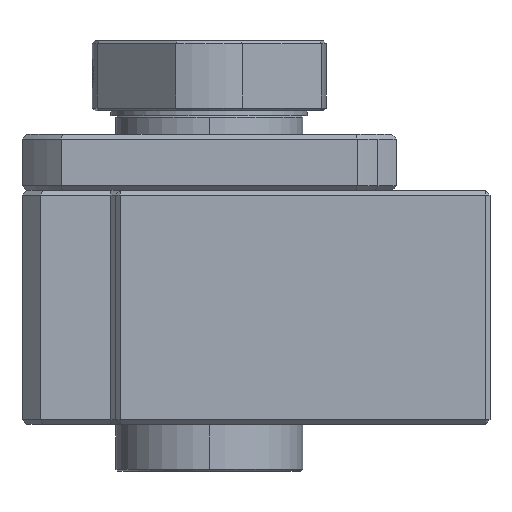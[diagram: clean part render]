
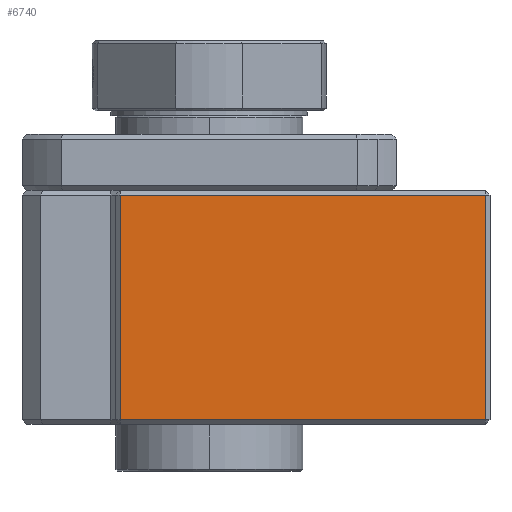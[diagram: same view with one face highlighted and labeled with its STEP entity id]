
A CAD part, left-side view. The second image highlights one B-rep face of the part: STEP entity #6740.
In plain terms, the highlighted planar face has unit normal (-1, 0, 0).
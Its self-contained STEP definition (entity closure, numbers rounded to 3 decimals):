
#515 = EDGE_LOOP ( 'NONE', ( #9942, #9940, #9941, #9939 ) ) ;
#806 = CARTESIAN_POINT ( 'NONE',  ( -40., -29.5, 12. ) ) ;
#1034 = FACE_OUTER_BOUND ( 'NONE', #515, .T. ) ;
#1037 = AXIS2_PLACEMENT_3D ( 'NONE', #10762, #10763, #10764 ) ;
#1976 = LINE ( 'NONE', #1977, #6554 ) ;
#1977 = CARTESIAN_POINT ( 'NONE',  ( -40., 10., -12. ) ) ;
#1978 = DIRECTION ( 'NONE',  ( 0., -1., 0. ) ) ;
#1979 = LINE ( 'NONE', #1980, #6550 ) ;
#1980 = CARTESIAN_POINT ( 'NONE',  ( -40., 9.5, 12.5 ) ) ;
#1981 = DIRECTION ( 'NONE',  ( 0., 0., -1. ) ) ;
#1982 = LINE ( 'NONE', #1983, #6545 ) ;
#1983 = CARTESIAN_POINT ( 'NONE',  ( -40., -29.5, 12.5 ) ) ;
#1984 = DIRECTION ( 'NONE',  ( 0., 0., 1. ) ) ;
#1985 = LINE ( 'NONE', #1986, #6539 ) ;
#1986 = CARTESIAN_POINT ( 'NONE',  ( -40., 10., 12. ) ) ;
#1987 = DIRECTION ( 'NONE',  ( 0., 1., 0. ) ) ;
#2694 = VERTEX_POINT ( 'NONE', #806 ) ;
#2760 = VERTEX_POINT ( 'NONE', #11351 ) ;
#2813 = VERTEX_POINT ( 'NONE', #11388 ) ;
#3028 = VERTEX_POINT ( 'NONE', #11548 ) ;
#5404 = EDGE_CURVE ( 'NONE', #3028, #2813, #1976, .T. ) ;
#5405 = EDGE_CURVE ( 'NONE', #2760, #3028, #1979, .T. ) ;
#5406 = EDGE_CURVE ( 'NONE', #2813, #2694, #1982, .T. ) ;
#5407 = EDGE_CURVE ( 'NONE', #2694, #2760, #1985, .T. ) ;
#6539 = VECTOR ( 'NONE', #1987, 1000. ) ;
#6545 = VECTOR ( 'NONE', #1984, 1000. ) ;
#6550 = VECTOR ( 'NONE', #1981, 1000. ) ;
#6554 = VECTOR ( 'NONE', #1978, 1000. ) ;
#6740 = ADVANCED_FACE ( 'NONE', ( #1034 ), #10761, .F. ) ;
#9939 = ORIENTED_EDGE ( 'NONE', *, *, #5407, .T. ) ;
#9940 = ORIENTED_EDGE ( 'NONE', *, *, #5404, .T. ) ;
#9941 = ORIENTED_EDGE ( 'NONE', *, *, #5406, .T. ) ;
#9942 = ORIENTED_EDGE ( 'NONE', *, *, #5405, .T. ) ;
#10761 = PLANE ( 'NONE',  #1037 ) ;
#10762 = CARTESIAN_POINT ( 'NONE',  ( -40., 10., 12.5 ) ) ;
#10763 = DIRECTION ( 'NONE',  ( 1., 0., 0. ) ) ;
#10764 = DIRECTION ( 'NONE',  ( 0., 0., -1. ) ) ;
#11351 = CARTESIAN_POINT ( 'NONE',  ( -40., 9.5, 12. ) ) ;
#11388 = CARTESIAN_POINT ( 'NONE',  ( -40., -29.5, -12. ) ) ;
#11548 = CARTESIAN_POINT ( 'NONE',  ( -40., 9.5, -12. ) ) ;
